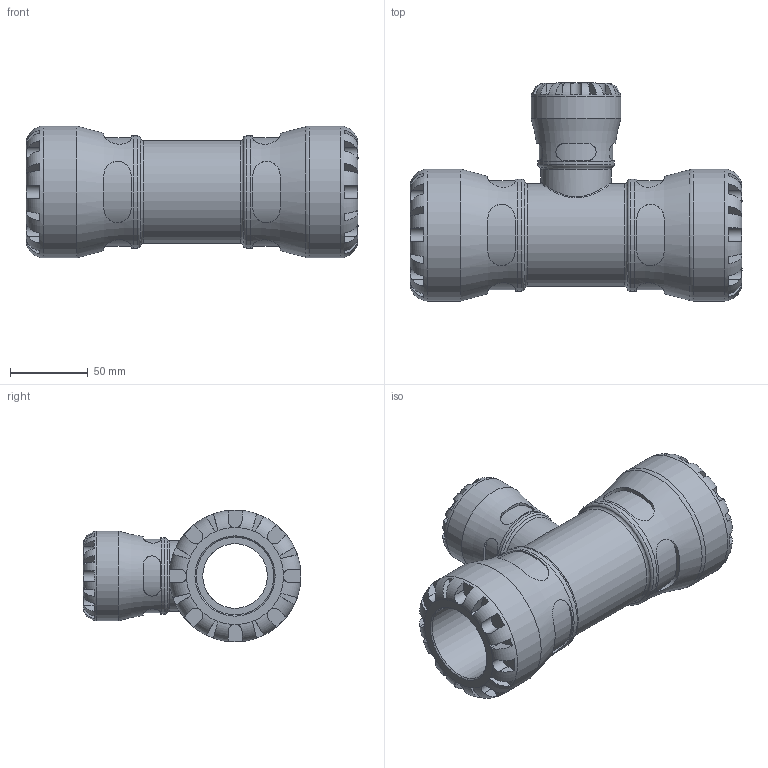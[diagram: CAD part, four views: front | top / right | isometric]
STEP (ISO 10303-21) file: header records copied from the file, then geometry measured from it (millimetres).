
FILE_DESCRIPTION(/* description */ ('PLASSON REDUCING TEE 50X32X50 SERIES 1'),/* implementation_level */ '2;1');
FILE_NAME(/* name */ 'C:\Dropbox\KIMPROJECTS-Inventor\99-16-3568-Processing\1034\103400050032_193400050032.ipt.stp',/* time_stamp */ '2017-01-22T11:40:48+02:00',/* author */ ('KIM'),/* organization */ (''),/* preprocessor_version */ 'ST-DEVELOPER v15.6',/* originating_system */ 'Autodesk Inventor 2015',/* authorisation */ '');
FILE_SCHEMA (('AUTOMOTIVE_DESIGN { 1 0 10303 214 3 1 1 }'));
Length unit declared in the file: millimetre
Products named in the file (1): 103400050032_193400050032
Bounding box: 214 x 140.5 x 85 mm (x, y, z)
Volume: 635541.1 mm3; surface area: 116129.4 mm2
Topology: 1 solids, 1 shells, 287 faces, 732 edges, 459 vertices
Faces by surface type: plane 174, cylinder 97, torus 13, cone 2, bspline 1
Full cylindrical faces by diameter (mm): 26.667 x1, 32 x1, 41.667 x1, 45.24 x1, 49.3 x1, 50 x2, 58 x1, 66.3 x1, 72.25 x2, 85 x2
Entity records: 11274 total; most frequent: CARTESIAN_POINT 4464, ORIENTED_EDGE 1364, DIRECTION 1308, EDGE_CURVE 682, AXIS2_PLACEMENT_3D 534, VERTEX_POINT 441, EDGE_LOOP 335, STYLED_ITEM 288
